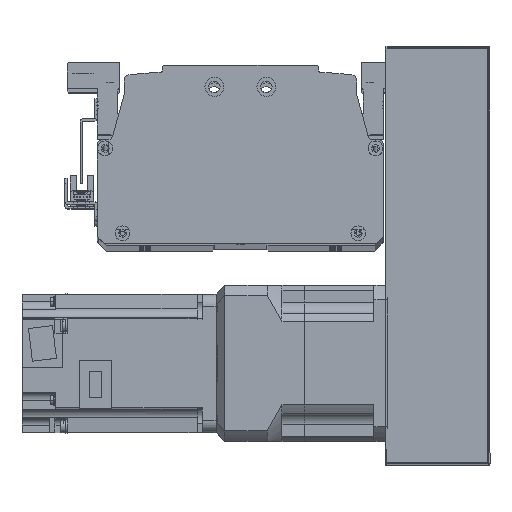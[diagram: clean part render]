
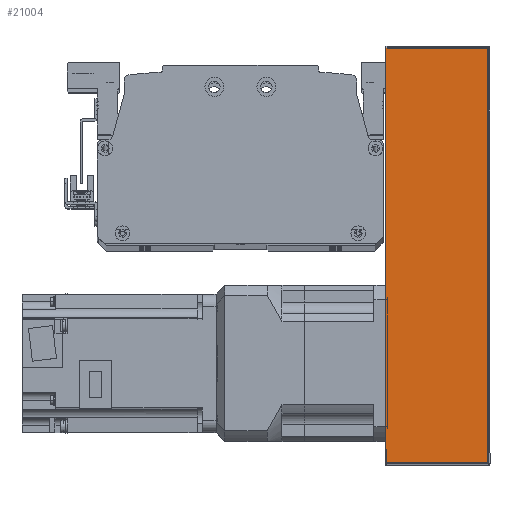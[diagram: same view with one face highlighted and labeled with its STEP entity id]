
A CAD part, top view. The second image highlights one B-rep face of the part: STEP entity #21004.
In plain terms, the highlighted planar face has unit normal (0, 0, 1) as drawn and (0, 1, 0) by its records, which use the part's own axes.
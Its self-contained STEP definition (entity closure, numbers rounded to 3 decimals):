
#568=PLANE('',#22912);
#1699=LINE('',#33437,#3359);
#1718=LINE('',#33521,#3378);
#1720=LINE('',#33531,#3380);
#1721=LINE('',#33533,#3381);
#3359=VECTOR('',#27218,10.);
#3378=VECTOR('',#27331,10.);
#3380=VECTOR('',#27345,10.);
#3381=VECTOR('',#27348,10.);
#5421=FACE_OUTER_BOUND('',#6905,.T.);
#6905=EDGE_LOOP('',(#16486,#16487,#16488,#16489));
#9825=VERTEX_POINT('',#33434);
#9826=VERTEX_POINT('',#33436);
#9843=VERTEX_POINT('',#33515);
#9846=VERTEX_POINT('',#33527);
#12209=EDGE_CURVE('',#9826,#9825,#1699,.T.);
#12252=EDGE_CURVE('',#9843,#9826,#1718,.T.);
#12257=EDGE_CURVE('',#9825,#9846,#1720,.T.);
#12258=EDGE_CURVE('',#9846,#9843,#1721,.T.);
#16486=ORIENTED_EDGE('',*,*,#12252,.T.);
#16487=ORIENTED_EDGE('',*,*,#12209,.T.);
#16488=ORIENTED_EDGE('',*,*,#12257,.T.);
#16489=ORIENTED_EDGE('',*,*,#12258,.T.);
#21004=ADVANCED_FACE('',(#5421),#568,.F.);
#22912=AXIS2_PLACEMENT_3D('',#33540,#27357,#27358);
#27218=DIRECTION('',(-1.,0.,0.));
#27331=DIRECTION('',(0.,0.,-1.));
#27345=DIRECTION('',(0.,0.,1.));
#27348=DIRECTION('',(1.,0.,0.));
#27357=DIRECTION('center_axis',(0.,-1.,0.));
#27358=DIRECTION('ref_axis',(-1.,0.,0.));
#33434=CARTESIAN_POINT('',(-120.,51.,-30.));
#33436=CARTESIAN_POINT('',(120.,51.,-30.));
#33437=CARTESIAN_POINT('',(-121.,51.,-30.));
#33515=CARTESIAN_POINT('',(120.,51.,29.));
#33521=CARTESIAN_POINT('',(120.,51.,0.));
#33527=CARTESIAN_POINT('',(-120.,51.,29.));
#33531=CARTESIAN_POINT('',(-120.,51.,0.));
#33533=CARTESIAN_POINT('',(60.5,51.,29.));
#33540=CARTESIAN_POINT('Origin',(121.,51.,0.));
